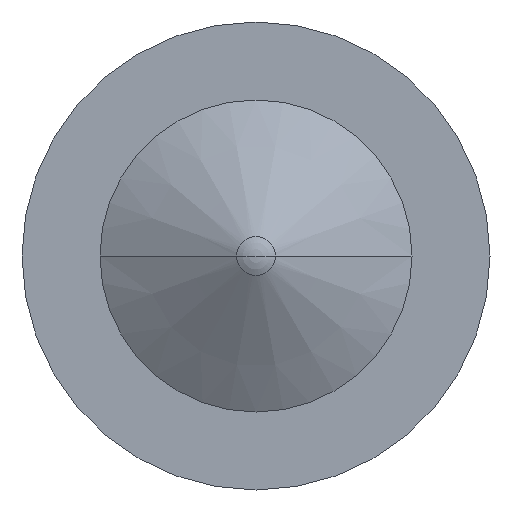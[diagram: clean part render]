
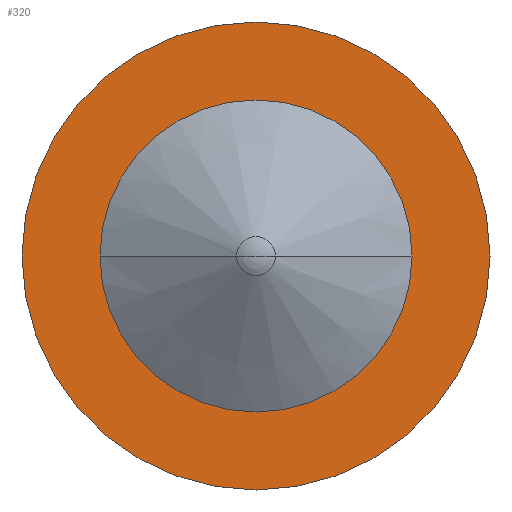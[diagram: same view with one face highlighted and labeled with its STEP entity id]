
A CAD part, front view. The second image highlights one B-rep face of the part: STEP entity #320.
In plain terms, the highlighted planar face has unit normal (0, -1, 0).
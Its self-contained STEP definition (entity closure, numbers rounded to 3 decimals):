
#64=CARTESIAN_POINT('',(0.,-4.,0.));
#65=DIRECTION('',(0.,1.,0.));
#66=DIRECTION('',(1.,0.,0.));
#67=AXIS2_PLACEMENT_3D('',#64,#65,#66);
#78=CARTESIAN_POINT('',(0.,-4.,0.));
#79=DIRECTION('',(0.,-1.,0.));
#80=DIRECTION('',(1.,0.,0.));
#81=AXIS2_PLACEMENT_3D('',#78,#79,#80);
#87=CARTESIAN_POINT('',(0.,-4.,0.));
#88=DIRECTION('',(0.,1.,0.));
#89=DIRECTION('',(1.,0.,0.));
#90=AXIS2_PLACEMENT_3D('',#87,#88,#89);
#92=CARTESIAN_POINT('',(0.,-4.,0.));
#93=DIRECTION('',(0.,-1.,0.));
#94=DIRECTION('',(1.,0.,0.));
#95=AXIS2_PLACEMENT_3D('',#92,#93,#94);
#159=CARTESIAN_POINT('',(0.4,-4.,0.));
#160=VERTEX_POINT('',#159);
#165=CARTESIAN_POINT('',(-0.4,-4.,0.));
#166=VERTEX_POINT('',#165);
#167=CARTESIAN_POINT('',(0.6,-4.,0.));
#168=CARTESIAN_POINT('',(-0.6,-4.,0.));
#169=VERTEX_POINT('',#167);
#170=VERTEX_POINT('',#168);
#305=CARTESIAN_POINT('',(0.,-4.,0.));
#306=DIRECTION('',(0.,1.,0.));
#307=DIRECTION('',(1.,0.,0.));
#308=AXIS2_PLACEMENT_3D('',#305,#306,#307);
#309=PLANE('',#308);
#310=ORIENTED_EDGE('',*,*,#299,.F.);
#311=ORIENTED_EDGE('',*,*,#285,.T.);
#312=EDGE_LOOP('',(#310,#311));
#313=FACE_OUTER_BOUND('',#312,.F.);
#315=ORIENTED_EDGE('',*,*,#314,.F.);
#317=ORIENTED_EDGE('',*,*,#316,.T.);
#318=EDGE_LOOP('',(#315,#317));
#319=FACE_BOUND('',#318,.F.);
#68=CIRCLE('',#67,0.6);
#82=CIRCLE('',#81,0.6);
#91=CIRCLE('',#90,0.4);
#96=CIRCLE('',#95,0.4);
#285=EDGE_CURVE('',#169,#170,#68,.T.);
#299=EDGE_CURVE('',#169,#170,#82,.T.);
#314=EDGE_CURVE('',#160,#166,#91,.T.);
#316=EDGE_CURVE('',#160,#166,#96,.T.);
#320=ADVANCED_FACE('',(#313,#319),#309,.F.);
